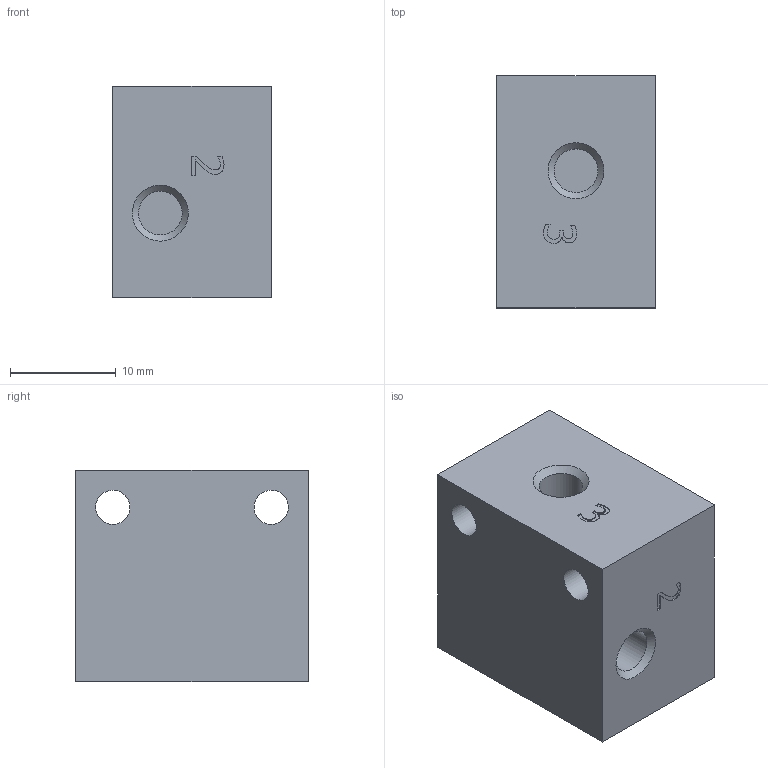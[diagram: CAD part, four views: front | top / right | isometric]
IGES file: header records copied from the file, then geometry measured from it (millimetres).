
Global section: file name: P395.01; native system: Autodesk Inventor 2014; preprocessor: unknown; date: 20160908.081456; units: millimetre
Bounding box: 15 x 22 x 20 mm (x, y, z)
Volume: 5950.7 mm3; surface area: 2733.6 mm2
Topology: 1 solids, 1 shells, 85 faces, 237 edges, 162 vertices
Faces by surface type: bspline 85
